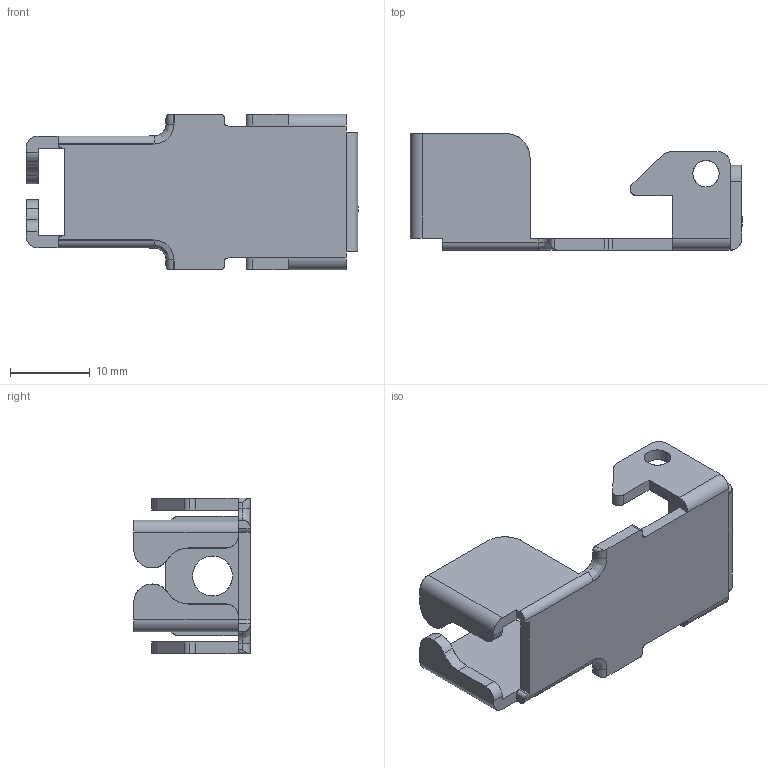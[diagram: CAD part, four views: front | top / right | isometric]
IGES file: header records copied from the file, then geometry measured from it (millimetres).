
Start section: SolidWorks IGES FILE using analytic representation for surfaces
Global section: file name: C:\Documents and Settings\lecoutey\Bureau\GR 2003\2003.060.10.IGS; native system: SolidWorks 2004 by SolidWorks Corporation; preprocessor: Version 5.3; author: lecoutey; date: 050405.093818; units: millimetre
Bounding box: 41.5 x 14.55 x 19.5 mm (x, y, z)
Surface area: 3140 mm2 (no closed solid volume)
Topology: 0 solids, 0 shells, 94 faces, 1082 edges, 1082 vertices
Faces by surface type: bspline 50, revolution 44
